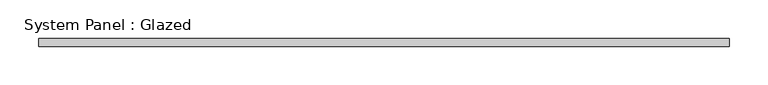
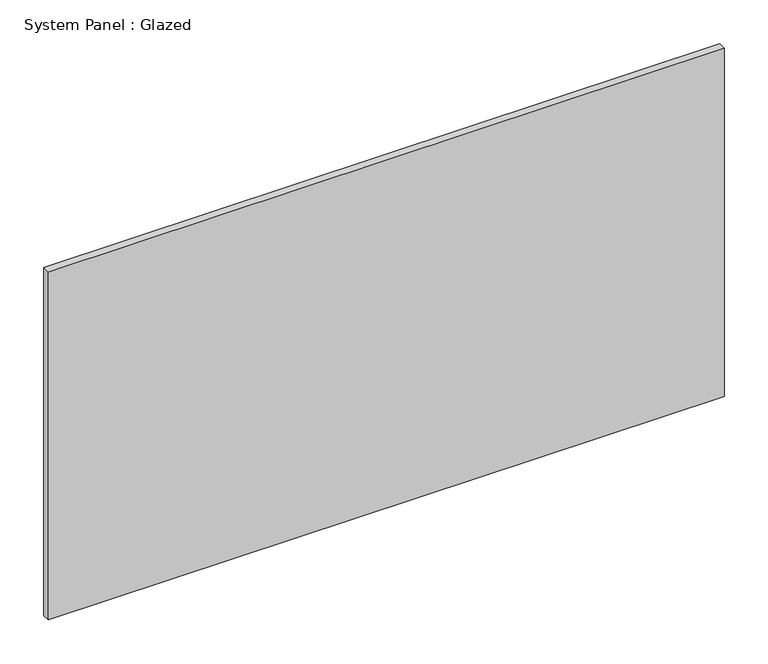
"""IFC4 building model written with IfcOpenShell, lengths in millimetres: plate geometry, System Panel : Glazed."""

from ifc_helpers import new_model, si_unit, origin, origin_with_axes, place, context, project, spatial, polyline, outline, extrude, source, transform, mapped, element, save


def system_panel_glazed_1415b8e8(model_context):
    return source(origin(), model_context, "Body", "SweptSolid", [
        extrude(outline(polyline([(445.0825808, -5.0), (-445.0825808, -5.0), (-445.0825808, 5.0), (445.0825808, 5.0), (445.0825808, -5.0)])), origin_with_axes(), (0.0, 0.0, 1.0), 485.0),
    ])


if __name__ == "__main__":
    model = new_model("IFC4")
    model_context = context("Model", 3, world=origin())
    ifc_project = project(units=[si_unit("LENGTHUNIT", "METRE", prefix="MILLI")], contexts=[model_context])
    site = spatial("IfcSite", under=ifc_project)
    building = spatial("IfcBuilding", under=site)
    placement = place(None, origin())
    system_panel_glazed_shape = system_panel_glazed_1415b8e8(model_context)
    element("IfcPlate", 1, ObjectType="System Panel : Glazed", at=placement, inside=building, context=model_context, shape_type="MappedRepresentation", body=[
        mapped(system_panel_glazed_shape, transform((0.0, 0.0, 0.0), x_axis=(1.0, 0.0, 0.0), y_axis=(0.0, 1.0, 0.0), z_axis=(0.0, 0.0, 1.0))),
    ])
    save(model, "model.ifc")
